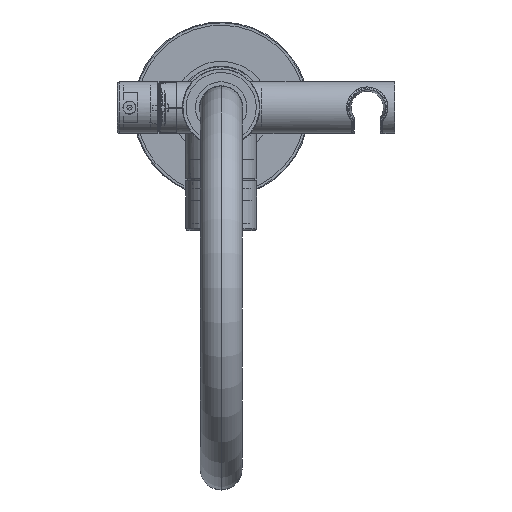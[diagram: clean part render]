
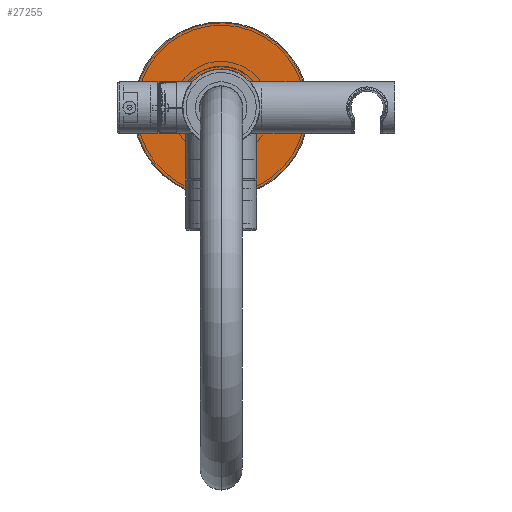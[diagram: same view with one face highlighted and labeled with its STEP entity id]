
A CAD part, top view. The second image highlights one B-rep face of the part: STEP entity #27255.
In plain terms, the highlighted planar face has unit normal (0, 0, 1) as drawn and (0, 1, 0) by its records, which use the part's own axes.
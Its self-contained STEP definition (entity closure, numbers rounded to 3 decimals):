
#9510 = CIRCLE ( 'NONE', #17930, 24.55 ) ;
#9777 = CARTESIAN_POINT ( 'NONE',  ( -24.25, 12., 0. ) ) ;
#11731 = FACE_BOUND ( 'NONE', #54709, .T. ) ;
#12358 = EDGE_LOOP ( 'NONE', ( #22389, #46949 ) ) ;
#17381 = VERTEX_POINT ( 'NONE', #55573 ) ;
#17930 = AXIS2_PLACEMENT_3D ( 'NONE', #96592, #45515, #57456 ) ;
#18584 = CIRCLE ( 'NONE', #75800, 24.55 ) ;
#22389 = ORIENTED_EDGE ( 'NONE', *, *, #28966, .T. ) ;
#27255 = ADVANCED_FACE ( 'NONE', ( #11731, #42908 ), #71463, .F. ) ;
#28427 = DIRECTION ( 'NONE',  ( 0., 0., -1. ) ) ;
#28966 = EDGE_CURVE ( 'NONE', #93759, #17381, #109537, .T. ) ;
#29433 = VERTEX_POINT ( 'NONE', #71710 ) ;
#30159 = CARTESIAN_POINT ( 'NONE',  ( 0., 12., -54. ) ) ;
#31137 = AXIS2_PLACEMENT_3D ( 'NONE', #120620, #67599, #28427 ) ;
#39334 = DIRECTION ( 'NONE',  ( 0., -1., 0. ) ) ;
#39729 = CARTESIAN_POINT ( 'NONE',  ( 0., 12., 0. ) ) ;
#41019 = DIRECTION ( 'NONE',  ( 0., 0., -1. ) ) ;
#42908 = FACE_OUTER_BOUND ( 'NONE', #12358, .T. ) ;
#45515 = DIRECTION ( 'NONE',  ( 0., -1., 0. ) ) ;
#46949 = ORIENTED_EDGE ( 'NONE', *, *, #87879, .T. ) ;
#47588 = CIRCLE ( 'NONE', #87828, 54. ) ;
#49435 = EDGE_CURVE ( 'NONE', #67063, #29433, #9510, .T. ) ;
#54248 = EDGE_CURVE ( 'NONE', #29433, #67063, #18584, .T. ) ;
#54709 = EDGE_LOOP ( 'NONE', ( #110799, #105047 ) ) ;
#55573 = CARTESIAN_POINT ( 'NONE',  ( 0., 12., 54. ) ) ;
#57456 = DIRECTION ( 'NONE',  ( 0., 0., -1. ) ) ;
#67063 = VERTEX_POINT ( 'NONE', #110546 ) ;
#67599 = DIRECTION ( 'NONE',  ( 0., 1., 0. ) ) ;
#71463 = PLANE ( 'NONE',  #100743 ) ;
#71710 = CARTESIAN_POINT ( 'NONE',  ( 0., 12., -24.55 ) ) ;
#75800 = AXIS2_PLACEMENT_3D ( 'NONE', #89721, #39334, #79814 ) ;
#79814 = DIRECTION ( 'NONE',  ( 0., 0., -1. ) ) ;
#87828 = AXIS2_PLACEMENT_3D ( 'NONE', #39729, #90757, #41019 ) ;
#87879 = EDGE_CURVE ( 'NONE', #17381, #93759, #47588, .T. ) ;
#89721 = CARTESIAN_POINT ( 'NONE',  ( 0., 12., 0. ) ) ;
#90757 = DIRECTION ( 'NONE',  ( 0., 1., 0. ) ) ;
#93759 = VERTEX_POINT ( 'NONE', #30159 ) ;
#96592 = CARTESIAN_POINT ( 'NONE',  ( 0., 12., 0. ) ) ;
#100743 = AXIS2_PLACEMENT_3D ( 'NONE', #9777, #113224, #111928 ) ;
#105047 = ORIENTED_EDGE ( 'NONE', *, *, #54248, .T. ) ;
#109537 = CIRCLE ( 'NONE', #31137, 54. ) ;
#110546 = CARTESIAN_POINT ( 'NONE',  ( 0., 12., 24.55 ) ) ;
#110799 = ORIENTED_EDGE ( 'NONE', *, *, #49435, .T. ) ;
#111928 = DIRECTION ( 'NONE',  ( 0., 0., -1. ) ) ;
#113224 = DIRECTION ( 'NONE',  ( 0., -1., 0. ) ) ;
#120620 = CARTESIAN_POINT ( 'NONE',  ( 0., 12., 0. ) ) ;
